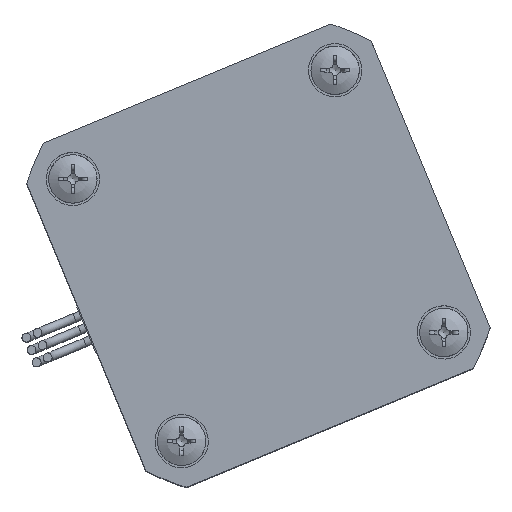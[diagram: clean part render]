
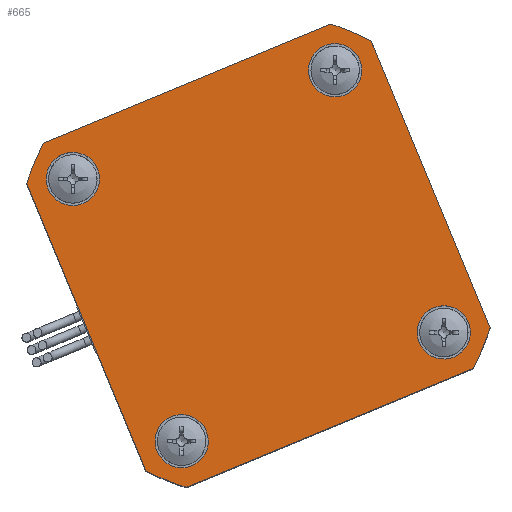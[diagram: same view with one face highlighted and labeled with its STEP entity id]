
A CAD part, top view. The second image highlights one B-rep face of the part: STEP entity #665.
In plain terms, the highlighted planar face has unit normal (0, 0, 1) as drawn and (0, 0, -1) by its records, which use the part's own axes.
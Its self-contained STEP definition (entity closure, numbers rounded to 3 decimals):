
#184=LINE('',#9603,#268);
#204=LINE('',#9644,#288);
#212=LINE('',#9664,#296);
#224=LINE('',#9692,#308);
#268=VECTOR('',#2768,1.);
#288=VECTOR('',#2790,1.);
#296=VECTOR('',#2806,1.);
#308=VECTOR('',#2826,1.);
#458=PLANE('',#2481);
#665=ADVANCED_FACE('',(#866,#867,#868,#869,#870),#458,.F.);
#866=FACE_BOUND('',#1008,.T.);
#867=FACE_BOUND('',#1009,.T.);
#868=FACE_BOUND('',#1010,.T.);
#869=FACE_BOUND('',#1011,.T.);
#870=FACE_BOUND('',#1012,.T.);
#1008=EDGE_LOOP('',(#1338));
#1009=EDGE_LOOP('',(#1339));
#1010=EDGE_LOOP('',(#1340));
#1011=EDGE_LOOP('',(#1341));
#1012=EDGE_LOOP('',(#1342,#1343,#1344,#1345,#1346,#1347,#1348,#1349));
#1338=ORIENTED_EDGE('',*,*,#2102,.T.);
#1339=ORIENTED_EDGE('',*,*,#2103,.T.);
#1340=ORIENTED_EDGE('',*,*,#2104,.T.);
#1341=ORIENTED_EDGE('',*,*,#2105,.T.);
#1342=ORIENTED_EDGE('',*,*,#2067,.F.);
#1343=ORIENTED_EDGE('',*,*,#2076,.F.);
#1344=ORIENTED_EDGE('',*,*,#2053,.F.);
#1345=ORIENTED_EDGE('',*,*,#2084,.F.);
#1346=ORIENTED_EDGE('',*,*,#2023,.F.);
#1347=ORIENTED_EDGE('',*,*,#2082,.F.);
#1348=ORIENTED_EDGE('',*,*,#2043,.F.);
#1349=ORIENTED_EDGE('',*,*,#2078,.F.);
#1803=VERTEX_POINT('',#9602);
#1804=VERTEX_POINT('',#9604);
#1823=VERTEX_POINT('',#9643);
#1824=VERTEX_POINT('',#9645);
#1831=VERTEX_POINT('',#9663);
#1832=VERTEX_POINT('',#9665);
#1843=VERTEX_POINT('',#9691);
#1844=VERTEX_POINT('',#9693);
#1864=VERTEX_POINT('',#9900);
#1865=VERTEX_POINT('',#9902);
#1866=VERTEX_POINT('',#9904);
#1867=VERTEX_POINT('',#9906);
#2023=EDGE_CURVE('',#1803,#1804,#184,.T.);
#2043=EDGE_CURVE('',#1823,#1824,#204,.T.);
#2053=EDGE_CURVE('',#1831,#1832,#212,.T.);
#2067=EDGE_CURVE('',#1843,#1844,#224,.T.);
#2076=EDGE_CURVE('',#1832,#1843,#2299,.T.);
#2078=EDGE_CURVE('',#1844,#1823,#2301,.T.);
#2082=EDGE_CURVE('',#1824,#1803,#2305,.T.);
#2084=EDGE_CURVE('',#1804,#1831,#2307,.T.);
#2102=EDGE_CURVE('',#1864,#1864,#2317,.T.);
#2103=EDGE_CURVE('',#1865,#1865,#2318,.T.);
#2104=EDGE_CURVE('',#1866,#1866,#2319,.T.);
#2105=EDGE_CURVE('',#1867,#1867,#2320,.T.);
#2299=CIRCLE('',#2452,27.35);
#2301=CIRCLE('',#2455,27.35);
#2305=CIRCLE('',#2461,27.35);
#2307=CIRCLE('',#2464,27.35);
#2317=CIRCLE('',#2477,3.);
#2318=CIRCLE('',#2478,3.);
#2319=CIRCLE('',#2479,3.);
#2320=CIRCLE('',#2480,3.);
#2452=AXIS2_PLACEMENT_3D('',#9709,#2838,#2839);
#2455=AXIS2_PLACEMENT_3D('',#9712,#2844,#2845);
#2461=AXIS2_PLACEMENT_3D('',#9718,#2856,#2857);
#2464=AXIS2_PLACEMENT_3D('',#9721,#2862,#2863);
#2477=AXIS2_PLACEMENT_3D('',#9899,#2888,#2889);
#2478=AXIS2_PLACEMENT_3D('',#9901,#2890,#2891);
#2479=AXIS2_PLACEMENT_3D('',#9903,#2892,#2893);
#2480=AXIS2_PLACEMENT_3D('',#9905,#2894,#2895);
#2481=AXIS2_PLACEMENT_3D('',#9907,#2896,#2897);
#2768=DIRECTION('',(-1.,0.,0.));
#2790=DIRECTION('',(0.,1.,0.));
#2806=DIRECTION('',(0.,-1.,0.));
#2826=DIRECTION('',(1.,0.,0.));
#2838=DIRECTION('',(0.,0.,1.));
#2839=DIRECTION('',(1.,0.,0.));
#2844=DIRECTION('',(0.,0.,1.));
#2845=DIRECTION('',(1.,0.,0.));
#2856=DIRECTION('',(0.,0.,1.));
#2857=DIRECTION('',(1.,0.,0.));
#2862=DIRECTION('',(0.,0.,1.));
#2863=DIRECTION('',(1.,0.,0.));
#2888=DIRECTION('',(0.,0.,1.));
#2889=DIRECTION('',(0.,1.,0.));
#2890=DIRECTION('',(0.,0.,1.));
#2891=DIRECTION('',(1.,0.,0.));
#2892=DIRECTION('',(0.,0.,1.));
#2893=DIRECTION('',(0.,-1.,0.));
#2894=DIRECTION('',(0.,0.,1.));
#2895=DIRECTION('',(-1.,0.,0.));
#2896=DIRECTION('',(0.,0.,1.));
#2897=DIRECTION('',(1.,0.,0.));
#9602=CARTESIAN_POINT('',(17.522,21.,0.));
#9603=CARTESIAN_POINT('',(17.522,21.,0.));
#9604=CARTESIAN_POINT('',(-17.522,21.,0.));
#9643=CARTESIAN_POINT('',(21.,-17.522,0.));
#9644=CARTESIAN_POINT('',(21.,-17.522,0.));
#9645=CARTESIAN_POINT('',(21.,17.522,0.));
#9663=CARTESIAN_POINT('',(-21.,17.522,0.));
#9664=CARTESIAN_POINT('',(-21.,17.522,0.));
#9665=CARTESIAN_POINT('',(-21.,-17.522,0.));
#9691=CARTESIAN_POINT('',(-17.522,-21.,0.));
#9692=CARTESIAN_POINT('',(-17.522,-21.,0.));
#9693=CARTESIAN_POINT('',(17.522,-21.,0.));
#9709=CARTESIAN_POINT('',(0.,0.,0.));
#9712=CARTESIAN_POINT('',(0.,0.,0.));
#9718=CARTESIAN_POINT('',(0.,0.,0.));
#9721=CARTESIAN_POINT('',(0.,0.,0.));
#9899=CARTESIAN_POINT('',(-16.,16.,0.));
#9900=CARTESIAN_POINT('',(-16.,19.,0.));
#9901=CARTESIAN_POINT('',(16.,16.,0.));
#9902=CARTESIAN_POINT('',(19.,16.,0.));
#9903=CARTESIAN_POINT('',(16.,-16.,0.));
#9904=CARTESIAN_POINT('',(16.,-19.,0.));
#9905=CARTESIAN_POINT('',(-16.,-16.,0.));
#9906=CARTESIAN_POINT('',(-19.,-16.,0.));
#9907=CARTESIAN_POINT('',(0.,0.,0.));
